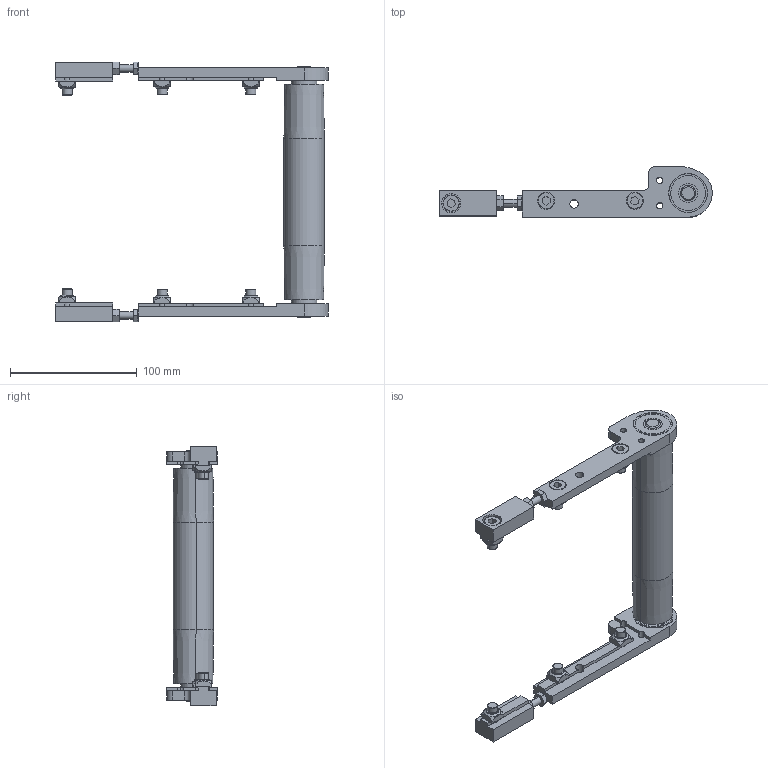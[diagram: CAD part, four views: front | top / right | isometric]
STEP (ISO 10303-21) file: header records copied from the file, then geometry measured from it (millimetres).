
FILE_DESCRIPTION (( 'STEP AP214' ), '1' );
FILE_NAME ('084.030.KIS.150.STEP', '2019-08-05T11:37:19', ( '' ), ( '' ), 'SwSTEP 2.0', 'SolidWorks 2018', '' );
FILE_SCHEMA (( 'AUTOMOTIVE_DESIGN' ));
Length unit declared in the file: millimetre
Products named in the file (9): 084.801.027 dx; 084.302.000 DADI ALUSIC 13x13-1_084.302.004; 084.301.000 VITI ALUSIC_084.301.002; 084.801.058.150; 084.030.KIS.150; 084.802.008; 62012RSBOMB_62012RSBOMB; 084.801.027 sx; 084.301.000 VITI ALUSIC_084.301.003
Assembly tree (19 placements, depth 2):
  084.030.KIS.150
    084.801.058.150
    084.801.027 dx
    084.801.027 sx
    084.802.008  x2
    62012RSBOMB_62012RSBOMB  x2
    084.301.000 VITI ALUSIC_084.301.002  x4
    084.301.000 VITI ALUSIC_084.301.003  x2
    084.302.000 DADI ALUSIC 13x13-1_084.302.004  x6
Bounding box: 215 x 40 x 205 mm (x, y, z)
Volume: 235905.9 mm3; surface area: 69127.7 mm2
Topology: 23 solids, 23 shells, 528 faces, 1356 edges, 884 vertices
Faces by surface type: plane 240, cylinder 164, torus 48, cone 44, bspline 24, sphere 8
Entity records: 9458 total; most frequent: CARTESIAN_POINT 1954, DIRECTION 1528, ORIENTED_EDGE 1416, EDGE_CURVE 708, AXIS2_PLACEMENT_3D 577, VERTEX_POINT 465, LINE 374, VECTOR 374
